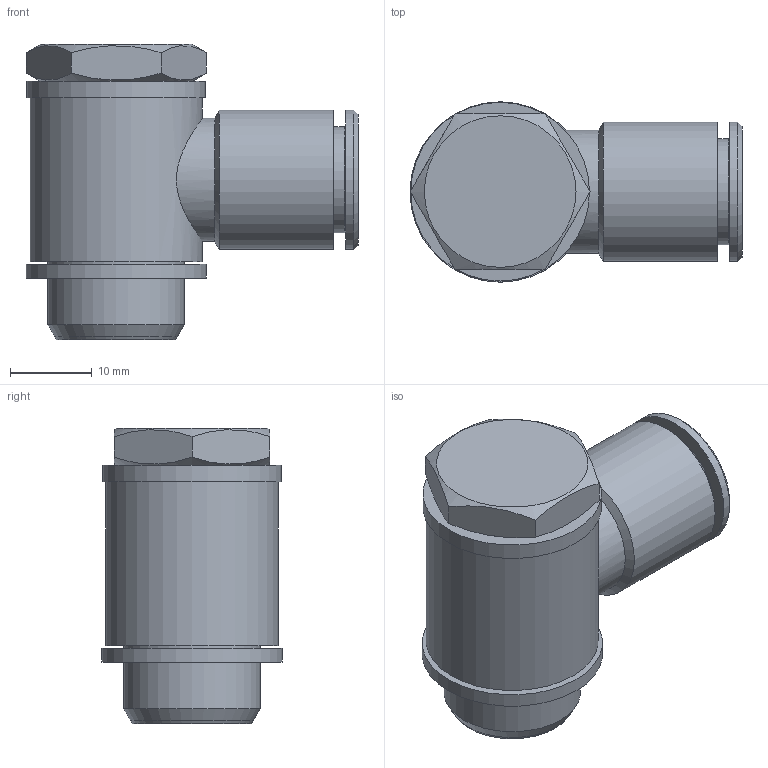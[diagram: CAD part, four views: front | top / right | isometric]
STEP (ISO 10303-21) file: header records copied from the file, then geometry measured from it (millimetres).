
FILE_DESCRIPTION(('Bauteilbeschreibung','HiCAD-Model','HiCAD-STEP-TRANSLATION','Bauteilbeschreibung'),'2;1');
FILE_NAME('B:/ABGLEICH/ZEICHNUNGEN/STEP FÜR INTERNET/STEP/S11212_IPSO_017_12_3-8.STP','2011-08-30T16:14:37+00:00',('Konstrukteur'),('Konstrukteur Firma GmbH'),' HiCAD neXt 2008, Step 3.1.1401.2J ','HiCAD neXt 2008','confidential');
FILE_SCHEMA(('AUTOMOTIVE_DESIGN { 1 2 10303 214 0 1 1 1 }'));
Length unit declared in the file: millimetre
Products named in the file (8): S11212_IPSO_017_12_3_8; DICHTRING 3_8; A4404A_HOHLSCHRAUBE_3_8_SW19; A4404A0HOHLSCHRAUBE03080SW19; G 3_8; A00044; DR12_5; R201212
Assembly tree (7 placements, depth 3):
  S11212_IPSO_017_12_3_8
    DICHTRING 3_8
    A4404A_HOHLSCHRAUBE_3_8_SW19
    A4404A0HOHLSCHRAUBE03080SW19
      G 3_8
    A00044
    DR12_5
    R201212
Bounding box: 40.5 x 22 x 36 mm (x, y, z)
Volume: 10873.3 mm3; surface area: 10825.4 mm2
Topology: 6 solids, 6 shells, 92 faces, 193 edges, 122 vertices
Faces by surface type: plane 34, cylinder 34, cone 22, torus 2
Full cylindrical faces by diameter (mm): 6 x2, 10 x1, 11 x1, 12.15 x1, 12.25 x1, 12.9 x1, 14.5 x2, 14.7 x1, 14.95 x2, 15 x1, 15.2 x1, 16.5 x2, 16.662 x1, 16.7 x1, 16.75 x2, 17 x2, 17.1 x1, 17.2 x1, 21 x1, 21.8 x1, 22 x1
Entity records: 6825 total; most frequent: CARTESIAN_POINT 4332, DIRECTION 400, ORIENTED_EDGE 248, AXIS2_PLACEMENT_3D 191, EDGE_LOOP 168, EDGE_CURVE 124, COLOUR_RGB 122, PRESENTATION_STYLE_ASSIGNMENT 122
